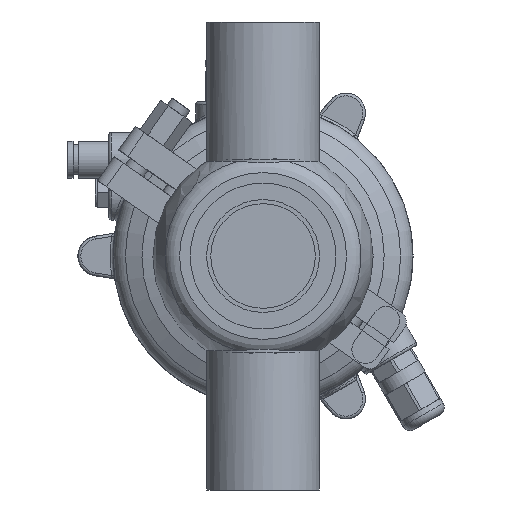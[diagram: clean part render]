
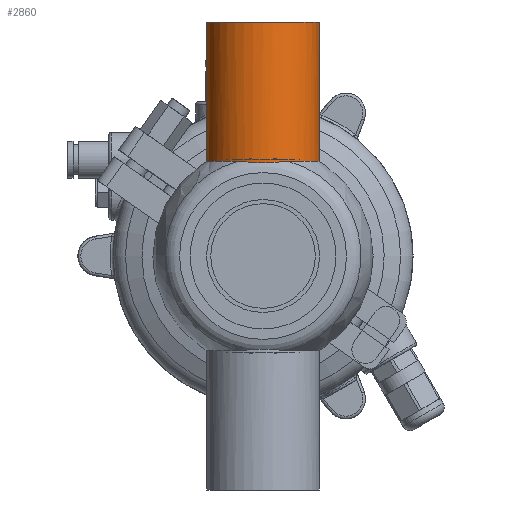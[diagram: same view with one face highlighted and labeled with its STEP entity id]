
A CAD part, front view. The second image highlights one B-rep face of the part: STEP entity #2860.
In plain terms, the highlighted cylindrical face has radius 20.5 mm (diameter 41 mm), a full revolution.
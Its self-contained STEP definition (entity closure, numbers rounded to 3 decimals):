
#628 = CARTESIAN_POINT ( 'NONE',  ( 33.908, -20.264, 3.204 ) ) ;
#926 = CARTESIAN_POINT ( 'NONE',  ( 33.803, -20.453, 1.603 ) ) ;
#2860 = ADVANCED_FACE ( 'NONE', ( #25455, #15455 ), #52537, .T. ) ;
#3005 = ORIENTED_EDGE ( 'NONE', *, *, #7215, .T. ) ;
#6412 = DIRECTION ( 'NONE',  ( 0., 0., 1. ) ) ;
#7215 = EDGE_CURVE ( 'NONE', #9738, #58522, #26216, .T. ) ;
#8519 = EDGE_LOOP ( 'NONE', ( #18069 ) ) ;
#9738 = VERTEX_POINT ( 'NONE', #12248 ) ;
#9788 = CARTESIAN_POINT ( 'NONE',  ( 34.347, -19.003, 7.862 ) ) ;
#10681 = DIRECTION ( 'NONE',  ( -1., 0., 0. ) ) ;
#11832 = CARTESIAN_POINT ( 'NONE',  ( 34.347, -19.003, -7.861 ) ) ;
#12248 = CARTESIAN_POINT ( 'NONE',  ( 34.347, -18.261, -9.316 ) ) ;
#14296 = CARTESIAN_POINT ( 'NONE',  ( 34.347, -18.261, 9.316 ) ) ;
#14641 = CARTESIAN_POINT ( 'NONE',  ( 34.347, -18.261, 9.316 ) ) ;
#15172 = CARTESIAN_POINT ( 'NONE',  ( 33.914, -20.251, -3.21 ) ) ;
#15455 = FACE_OUTER_BOUND ( 'NONE', #8519, .T. ) ;
#16876 = B_SPLINE_CURVE_WITH_KNOTS ( 'NONE', 3,
 ( #14296, #9788, #33096, #51325, #628, #926, #51923, #28832, #19737, #56761, #15172, #43360, #39717, #47938, #11832, #24554 ),
 .UNSPECIFIED., .F., .F.,
 ( 4, 2, 2, 2, 2, 2, 2, 4 ),
 ( 0., 0.005, 0.007, 0.01, 0.012, 0.013, 0.014, 0.019 ),
 .UNSPECIFIED. ) ;
#17532 = AXIS2_PLACEMENT_3D ( 'NONE', #38037, #33813, #47749 ) ;
#18069 = ORIENTED_EDGE ( 'NONE', *, *, #33370, .T. ) ;
#19737 = CARTESIAN_POINT ( 'NONE',  ( 33.803, -20.453, -1.604 ) ) ;
#22973 = AXIS2_PLACEMENT_3D ( 'NONE', #48452, #25959, #53921 ) ;
#24150 = ORIENTED_EDGE ( 'NONE', *, *, #45452, .T. ) ;
#24554 = CARTESIAN_POINT ( 'NONE',  ( 34.347, -18.261, -9.316 ) ) ;
#25455 = FACE_OUTER_BOUND ( 'NONE', #52411, .T. ) ;
#25959 = DIRECTION ( 'NONE',  ( -1., 0., 0. ) ) ;
#26216 = CIRCLE ( 'NONE', #17532, 20.5 ) ;
#28832 = CARTESIAN_POINT ( 'NONE',  ( 33.772, -20.5, -0.802 ) ) ;
#31691 = AXIS2_PLACEMENT_3D ( 'NONE', #43366, #10681, #6412 ) ;
#33096 = CARTESIAN_POINT ( 'NONE',  ( 34.203, -19.557, 6.355 ) ) ;
#33370 = EDGE_CURVE ( 'NONE', #53097, #53097, #49152, .T. ) ;
#33813 = DIRECTION ( 'NONE',  ( 1., 0., 0. ) ) ;
#38037 = CARTESIAN_POINT ( 'NONE',  ( 34.347, 0., 0. ) ) ;
#39717 = CARTESIAN_POINT ( 'NONE',  ( 34.02, -20.026, -4.401 ) ) ;
#43360 = CARTESIAN_POINT ( 'NONE',  ( 33.983, -20.109, -4.007 ) ) ;
#43366 = CARTESIAN_POINT ( 'NONE',  ( 0., 0., 0. ) ) ;
#45452 = EDGE_CURVE ( 'NONE', #58522, #9738, #16876, .T. ) ;
#47749 = DIRECTION ( 'NONE',  ( 0., 0., 1. ) ) ;
#47938 = CARTESIAN_POINT ( 'NONE',  ( 34.203, -19.556, -6.355 ) ) ;
#48452 = CARTESIAN_POINT ( 'NONE',  ( 85., 0., 0. ) ) ;
#49152 = CIRCLE ( 'NONE', #22973, 20.5 ) ;
#51325 = CARTESIAN_POINT ( 'NONE',  ( 33.982, -20.121, 4.006 ) ) ;
#51923 = CARTESIAN_POINT ( 'NONE',  ( 33.772, -20.5, 0.802 ) ) ;
#52411 = EDGE_LOOP ( 'NONE', ( #3005, #24150 ) ) ;
#52537 = CYLINDRICAL_SURFACE ( 'NONE', #31691, 20.5 ) ;
#53097 = VERTEX_POINT ( 'NONE', #57926 ) ;
#53921 = DIRECTION ( 'NONE',  ( 0., 0., 1. ) ) ;
#56761 = CARTESIAN_POINT ( 'NONE',  ( 33.882, -20.311, -2.808 ) ) ;
#57926 = CARTESIAN_POINT ( 'NONE',  ( 85., 0., 20.5 ) ) ;
#58522 = VERTEX_POINT ( 'NONE', #14641 ) ;
